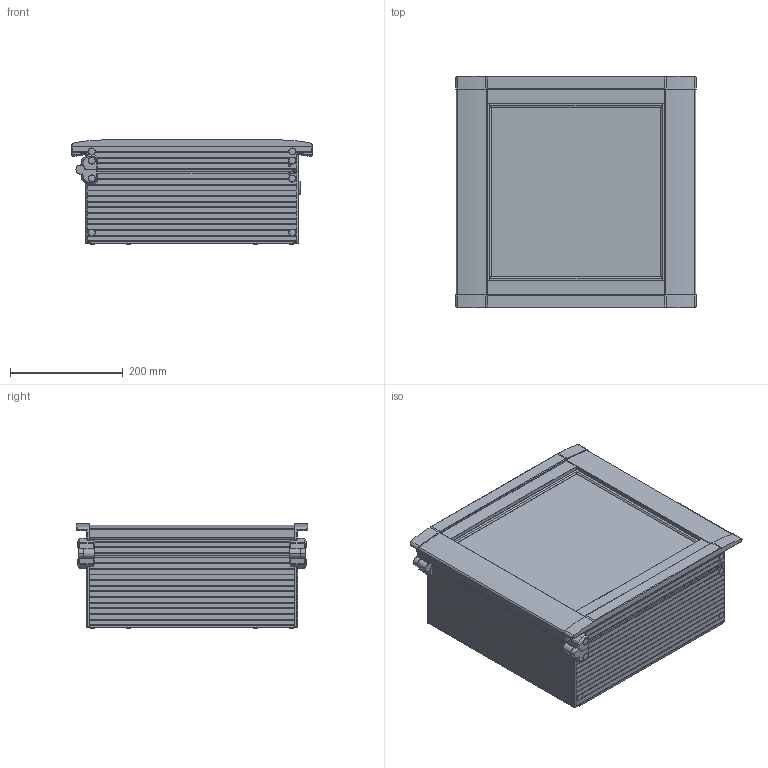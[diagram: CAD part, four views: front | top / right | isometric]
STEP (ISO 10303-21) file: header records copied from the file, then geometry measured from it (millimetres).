
FILE_DESCRIPTION (( 'STEP AP203' ), '1' );
FILE_NAME ('sy303016a.STEP', '2018-03-05T17:23:31', ( '' ), ( '' ), 'SwSTEP 2.0', 'SolidWorks 2014', '' );
FILE_SCHEMA (( 'CONFIG_CONTROL_DESIGN' ));
Length unit declared in the file: millimetre
Products named in the file (2): 89139431; sy303016a
Assembly tree (1 placements, depth 2):
  sy303016a
    89139431
Bounding box: 427 x 410 x 186.36 mm (x, y, z)
Surface area: 937073.1 mm2 (no closed solid volume)
Topology: 0 solids, 127 shells, 1033 faces, 3935 edges, 2960 vertices
Faces by surface type: cylinder 480, plane 432, cone 65, bspline 56
Entity records: 49020 total; most frequent: CARTESIAN_POINT 19318, ORIENTED_EDGE 5927, DIRECTION 5060, EDGE_CURVE 3926, VERTEX_POINT 2960, LINE 1760, VECTOR 1760, AXIS2_PLACEMENT_3D 1650
